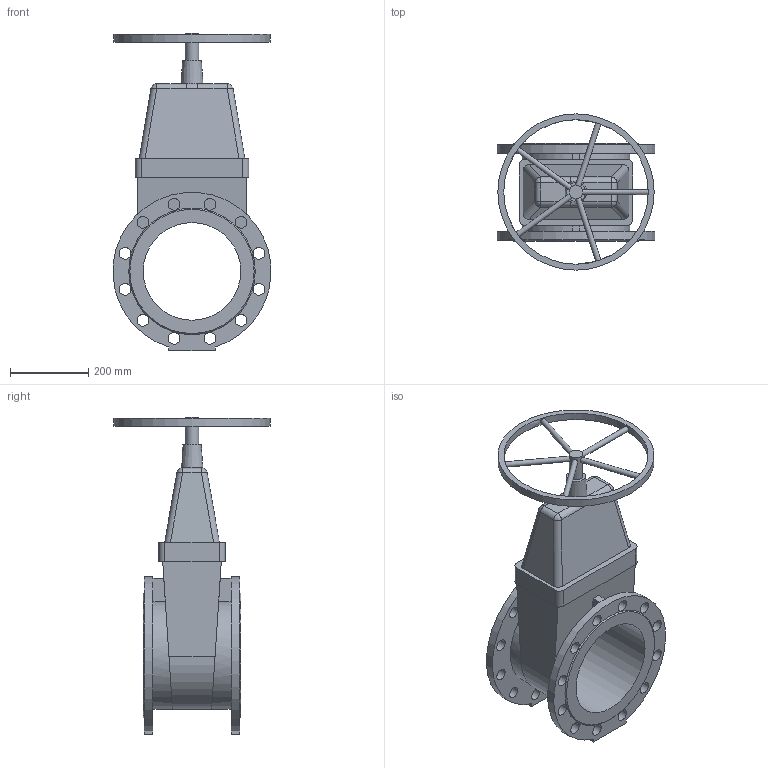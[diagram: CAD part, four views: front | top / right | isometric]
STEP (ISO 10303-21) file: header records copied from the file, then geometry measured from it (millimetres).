
FILE_DESCRIPTION(('STEP AP203'), '1');
FILE_NAME('Çàäâèæêà 47GV DN250 PN10_PN16_L250 ñ ìàõîâèêîì', '', ('UNSPECIFIED'), ('UNSPECIFIED'), 'ASCON STEP Converter 1.6', 'ASCON Math Kernel', '');
FILE_SCHEMA(('CONFIG_CONTROL_DESIGN'));
Length unit declared in the file: millimetre
Bounding box: 404.15 x 400 x 811.5 mm (x, y, z)
Volume: 18873754.5 mm3; surface area: 1172306.6 mm2
Topology: 1 solids, 1 shells, 118 faces, 301 edges, 192 vertices
Faces by surface type: cylinder 60, plane 49, bspline 6, cone 3
Full cylindrical faces by diameter (mm): 14 x5, 30 x24, 34 x1, 250 x1, 370 x1, 400 x1
Entity records: 5827 total; most frequent: CARTESIAN_POINT 2014, DIRECTION 570, ORIENTED_EDGE 520, EDGE_CURVE 260, EDGE_LOOP 226, AXIS2_PLACEMENT_3D 223, VERTEX_POINT 192, FACE_BOUND 156
